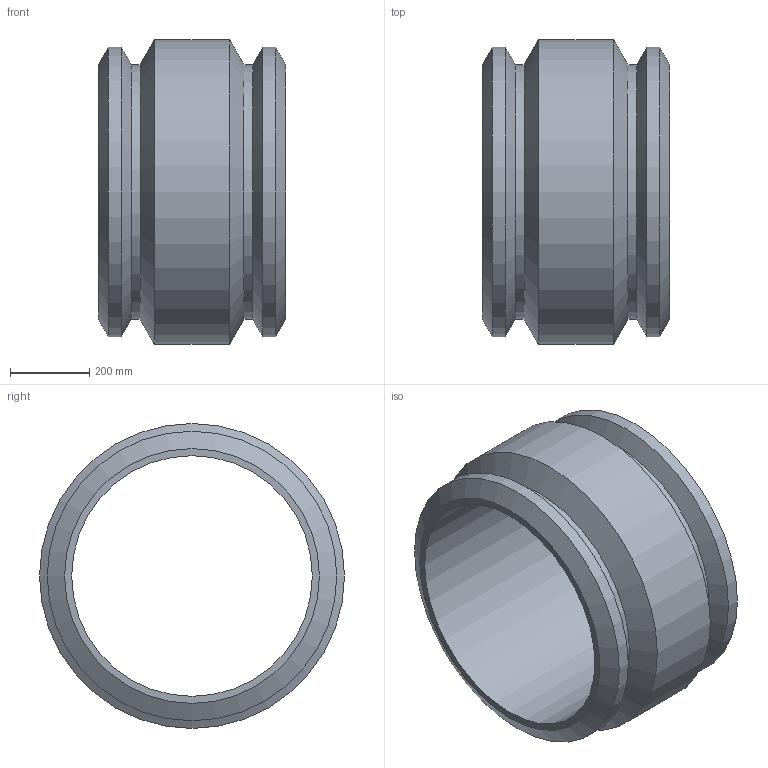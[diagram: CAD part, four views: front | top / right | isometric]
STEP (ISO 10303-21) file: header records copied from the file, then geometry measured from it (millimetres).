
FILE_DESCRIPTION(/* description */ ('PLASSON COUPLER 24''''DIPS'),/* implementation_level */ '2;1');
FILE_NAME(/* name */ 'C:\Dropbox\KIMPROJECTS-Inventor 2019\99-16-3568-Processing Inch\ASTM ElectroFusion 2021\5901D\5901D003240.ipt.stp',/* time_stamp */ '2021-08-30T09:49:02+03:00',/* author */ ('KIM'),/* organization */ (''),/* preprocessor_version */ 'ST-DEVELOPER v17.2',/* originating_system */ 'Autodesk Inventor 2019',/* authorisation */ '');
FILE_SCHEMA (('AUTOMOTIVE_DESIGN { 1 0 10303 214 3 1 1 }'));
Length unit declared in the file: inch
Products named in the file (1): 5901D003240
Bounding box: 471.93 x 768.86 x 768.86 mm (x, y, z)
Volume: 58580458.1 mm3; surface area: 2422837.6 mm2
Topology: 1 solids, 1 shells, 14 faces, 40 edges, 28 vertices
Faces by surface type: cone 6, cylinder 6, plane 2
Full cylindrical faces by diameter (mm): 606.9 x1, 642.396 x2, 729.996 x2, 768.858 x1
Entity records: 531 total; most frequent: DIRECTION 98, CARTESIAN_POINT 83, ORIENTED_EDGE 80, AXIS2_PLACEMENT_3D 43, EDGE_CURVE 40, CIRCLE 28, VERTEX_POINT 28, EDGE_LOOP 16
